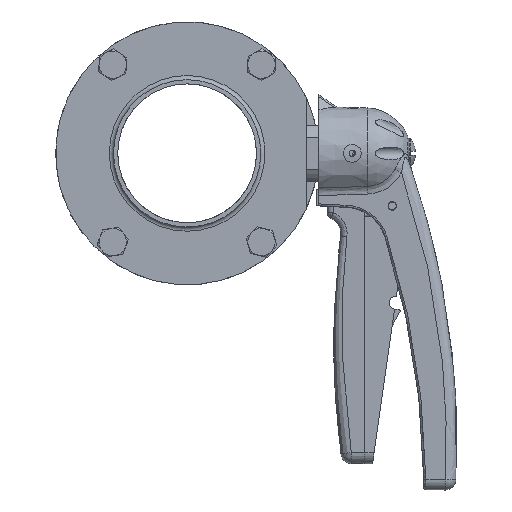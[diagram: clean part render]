
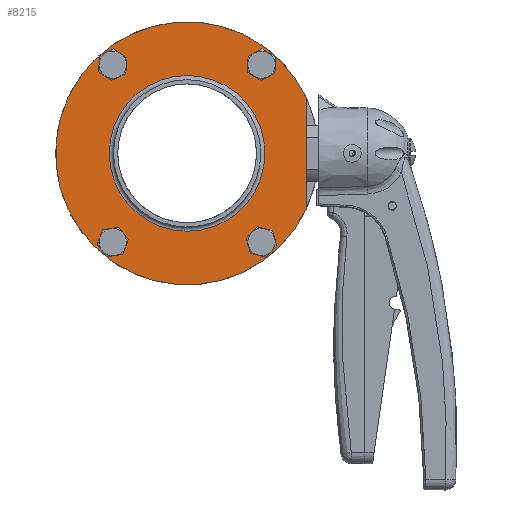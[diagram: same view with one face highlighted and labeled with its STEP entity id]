
A CAD part, front view. The second image highlights one B-rep face of the part: STEP entity #8215.
In plain terms, the highlighted planar face has unit normal (0, -1, 0) as drawn and (-1, 0, 0) by its records, which use the part's own axes.
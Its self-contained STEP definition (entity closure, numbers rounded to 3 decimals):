
#684=FACE_BOUND('',#1683,.T.);
#685=FACE_BOUND('',#1684,.T.);
#686=FACE_BOUND('',#1685,.T.);
#687=FACE_BOUND('',#1686,.T.);
#688=FACE_BOUND('',#1687,.T.);
#737=PLANE('',#8893);
#1194=FACE_OUTER_BOUND('',#1682,.T.);
#1682=EDGE_LOOP('',(#5767,#5768));
#1683=EDGE_LOOP('',(#5769));
#1684=EDGE_LOOP('',(#5770));
#1685=EDGE_LOOP('',(#5771));
#1686=EDGE_LOOP('',(#5772));
#1687=EDGE_LOOP('',(#5773));
#2211=LINE('',#11896,#2790);
#2790=VECTOR('',#9756,10.);
#3362=CIRCLE('',#8881,4.25);
#3364=CIRCLE('',#8884,4.25);
#3366=CIRCLE('',#8887,4.25);
#3368=CIRCLE('',#8890,4.25);
#3370=CIRCLE('',#8894,62.5);
#3371=CIRCLE('',#8895,37.);
#3685=VERTEX_POINT('',#11865);
#3687=VERTEX_POINT('',#11871);
#3689=VERTEX_POINT('',#11877);
#3691=VERTEX_POINT('',#11883);
#3694=VERTEX_POINT('',#11890);
#3696=VERTEX_POINT('',#11894);
#3697=VERTEX_POINT('',#11899);
#4474=EDGE_CURVE('',#3685,#3685,#3362,.T.);
#4477=EDGE_CURVE('',#3687,#3687,#3364,.T.);
#4480=EDGE_CURVE('',#3689,#3689,#3366,.T.);
#4483=EDGE_CURVE('',#3691,#3691,#3368,.T.);
#4489=EDGE_CURVE('',#3694,#3696,#2211,.T.);
#4490=EDGE_CURVE('',#3696,#3694,#3370,.T.);
#4491=EDGE_CURVE('',#3697,#3697,#3371,.T.);
#5767=ORIENTED_EDGE('',*,*,#4489,.T.);
#5768=ORIENTED_EDGE('',*,*,#4490,.T.);
#5769=ORIENTED_EDGE('',*,*,#4474,.T.);
#5770=ORIENTED_EDGE('',*,*,#4477,.T.);
#5771=ORIENTED_EDGE('',*,*,#4480,.T.);
#5772=ORIENTED_EDGE('',*,*,#4483,.T.);
#5773=ORIENTED_EDGE('',*,*,#4491,.F.);
#8215=ADVANCED_FACE('',(#1194,#684,#685,#686,#687,#688),#737,.T.);
#8881=AXIS2_PLACEMENT_3D('',#11866,#9725,#9726);
#8884=AXIS2_PLACEMENT_3D('',#11872,#9732,#9733);
#8887=AXIS2_PLACEMENT_3D('',#11878,#9739,#9740);
#8890=AXIS2_PLACEMENT_3D('',#11884,#9746,#9747);
#8893=AXIS2_PLACEMENT_3D('',#11897,#9757,#9758);
#8894=AXIS2_PLACEMENT_3D('',#11898,#9759,#9760);
#8895=AXIS2_PLACEMENT_3D('',#11900,#9761,#9762);
#9725=DIRECTION('center_axis',(1.,0.,0.));
#9726=DIRECTION('ref_axis',(0.,0.,1.));
#9732=DIRECTION('center_axis',(1.,0.,0.));
#9733=DIRECTION('ref_axis',(0.,0.,1.));
#9739=DIRECTION('center_axis',(1.,0.,0.));
#9740=DIRECTION('ref_axis',(0.,0.,1.));
#9746=DIRECTION('center_axis',(1.,0.,0.));
#9747=DIRECTION('ref_axis',(0.,0.,1.));
#9756=DIRECTION('',(0.,0.,-1.));
#9757=DIRECTION('center_axis',(-1.,0.,0.));
#9758=DIRECTION('ref_axis',(0.,0.,1.));
#9759=DIRECTION('center_axis',(-1.,0.,0.));
#9760=DIRECTION('ref_axis',(0.,0.,1.));
#9761=DIRECTION('center_axis',(-1.,0.,0.));
#9762=DIRECTION('ref_axis',(0.,0.,1.));
#11865=CARTESIAN_POINT('',(-10.,-35.353,37.882));
#11866=CARTESIAN_POINT('Origin',(-10.,-35.353,42.132));
#11871=CARTESIAN_POINT('',(-10.,35.353,-46.382));
#11872=CARTESIAN_POINT('Origin',(-10.,35.353,-42.132));
#11877=CARTESIAN_POINT('',(-10.,-35.353,-46.382));
#11878=CARTESIAN_POINT('Origin',(-10.,-35.353,-42.132));
#11883=CARTESIAN_POINT('',(-10.,35.353,37.882));
#11884=CARTESIAN_POINT('Origin',(-10.,35.353,42.132));
#11890=CARTESIAN_POINT('',(-10.,56.5,26.721));
#11894=CARTESIAN_POINT('',(-10.,56.5,-26.721));
#11896=CARTESIAN_POINT('',(-10.,56.5,16.365));
#11897=CARTESIAN_POINT('Origin',(-10.,-37.,0.));
#11898=CARTESIAN_POINT('Origin',(-10.,0.,
0.));
#11899=CARTESIAN_POINT('',(-10.,0.,-37.));
#11900=CARTESIAN_POINT('Origin',(-10.,0.,
0.));
